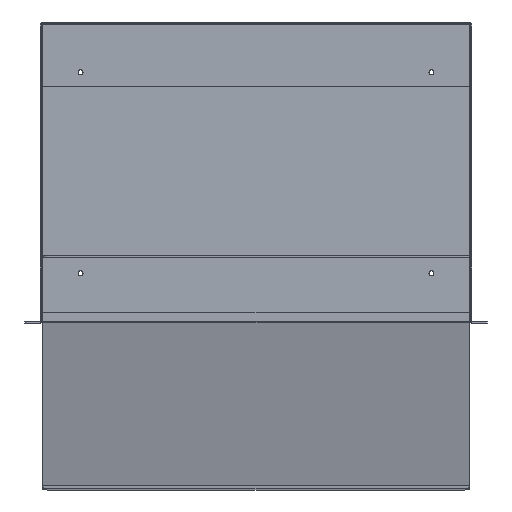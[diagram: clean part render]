
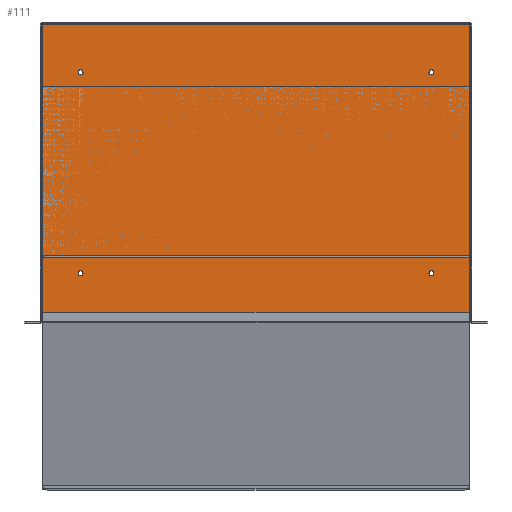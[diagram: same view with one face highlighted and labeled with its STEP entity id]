
A CAD part, top view. The second image highlights one B-rep face of the part: STEP entity #111.
In plain terms, the highlighted planar face has unit normal (0, 0, 1).
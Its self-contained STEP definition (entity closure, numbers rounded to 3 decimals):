
#111 = ADVANCED_FACE( '', ( #261, #262, #263, #264, #265 ), #266, .T. );
#261 = FACE_BOUND( '', #591, .T. );
#262 = FACE_BOUND( '', #592, .T. );
#263 = FACE_BOUND( '', #593, .T. );
#264 = FACE_BOUND( '', #594, .T. );
#265 = FACE_OUTER_BOUND( '', #595, .T. );
#266 = PLANE( '', #596 );
#591 = EDGE_LOOP( '', ( #1078 ) );
#592 = EDGE_LOOP( '', ( #1079 ) );
#593 = EDGE_LOOP( '', ( #1080 ) );
#594 = EDGE_LOOP( '', ( #1081 ) );
#595 = EDGE_LOOP( '', ( #1082, #1083, #1084, #1085 ) );
#596 = AXIS2_PLACEMENT_3D( '', #1086, #1087, #1088 );
#1078 = ORIENTED_EDGE( '', *, *, #1927, .F. );
#1079 = ORIENTED_EDGE( '', *, *, #1928, .F. );
#1080 = ORIENTED_EDGE( '', *, *, #1929, .F. );
#1081 = ORIENTED_EDGE( '', *, *, #1930, .F. );
#1082 = ORIENTED_EDGE( '', *, *, #1931, .F. );
#1083 = ORIENTED_EDGE( '', *, *, #1892, .T. );
#1084 = ORIENTED_EDGE( '', *, *, #1932, .F. );
#1085 = ORIENTED_EDGE( '', *, *, #1933, .T. );
#1086 = CARTESIAN_POINT( '', ( -273.05, -189.586, 1.829 ) );
#1087 = DIRECTION( '', ( 0., 0., 1. ) );
#1088 = DIRECTION( '', ( 1., 0., 0. ) );
#1892 = EDGE_CURVE( '', #2258, #2253, #2261, .T. );
#1927 = EDGE_CURVE( '', #2323, #2323, #2324, .T. );
#1928 = EDGE_CURVE( '', #2325, #2325, #2326, .T. );
#1929 = EDGE_CURVE( '', #2327, #2327, #2328, .T. );
#1930 = EDGE_CURVE( '', #2329, #2329, #2330, .T. );
#1931 = EDGE_CURVE( '', #2258, #2331, #2332, .T. );
#1932 = EDGE_CURVE( '', #2333, #2253, #2334, .T. );
#1933 = EDGE_CURVE( '', #2333, #2331, #2335, .T. );
#2253 = VERTEX_POINT( '', #2845 );
#2258 = VERTEX_POINT( '', #2851 );
#2261 = LINE( '', #2867, #2868 );
#2323 = VERTEX_POINT( '', #2986 );
#2324 = CIRCLE( '', #2987, 3.175 );
#2325 = VERTEX_POINT( '', #2988 );
#2326 = CIRCLE( '', #2989, 3.175 );
#2327 = VERTEX_POINT( '', #2990 );
#2328 = CIRCLE( '', #2991, 3.175 );
#2329 = VERTEX_POINT( '', #2992 );
#2330 = CIRCLE( '', #2993, 3.175 );
#2331 = VERTEX_POINT( '', #2994 );
#2332 = LINE( '', #2995, #2996 );
#2333 = VERTEX_POINT( '', #2997 );
#2334 = LINE( '', #2998, #2999 );
#2335 = LINE( '', #3000, #3001 );
#2845 = CARTESIAN_POINT( '', ( -270.307, 186.842, 1.829 ) );
#2851 = CARTESIAN_POINT( '', ( 270.307, 186.842, 1.829 ) );
#2867 = CARTESIAN_POINT( '', ( -270.305, 186.842, 1.829 ) );
#2868 = VECTOR( '', #3636, 1000. );
#2986 = CARTESIAN_POINT( '', ( -218.669, 126.086, 1.829 ) );
#2987 = AXIS2_PLACEMENT_3D( '', #3675, #3676, #3677 );
#2988 = CARTESIAN_POINT( '', ( 225.019, -127.914, 1.829 ) );
#2989 = AXIS2_PLACEMENT_3D( '', #3678, #3679, #3680 );
#2990 = CARTESIAN_POINT( '', ( 225.019, 126.086, 1.829 ) );
#2991 = AXIS2_PLACEMENT_3D( '', #3681, #3682, #3683 );
#2992 = CARTESIAN_POINT( '', ( -218.669, -127.914, 1.829 ) );
#2993 = AXIS2_PLACEMENT_3D( '', #3684, #3685, #3686 );
#2994 = CARTESIAN_POINT( '', ( 270.307, -189.586, 1.829 ) );
#2995 = CARTESIAN_POINT( '', ( 270.307, 189.586, 1.829 ) );
#2996 = VECTOR( '', #3687, 1000. );
#2997 = CARTESIAN_POINT( '', ( -270.307, -189.586, 1.829 ) );
#2998 = CARTESIAN_POINT( '', ( -270.307, -189.586, 1.829 ) );
#2999 = VECTOR( '', #3688, 1000. );
#3000 = CARTESIAN_POINT( '', ( -273.05, -189.586, 1.829 ) );
#3001 = VECTOR( '', #3689, 1000. );
#3636 = DIRECTION( '', ( -1., 0., 0. ) );
#3675 = CARTESIAN_POINT( '', ( -221.844, 126.086, 1.829 ) );
#3676 = DIRECTION( '', ( 0., 0., 1. ) );
#3677 = DIRECTION( '', ( 1., 0., 0. ) );
#3678 = CARTESIAN_POINT( '', ( 221.844, -127.914, 1.829 ) );
#3679 = DIRECTION( '', ( 0., 0., 1. ) );
#3680 = DIRECTION( '', ( 1., 0., 0. ) );
#3681 = CARTESIAN_POINT( '', ( 221.844, 126.086, 1.829 ) );
#3682 = DIRECTION( '', ( 0., 0., 1. ) );
#3683 = DIRECTION( '', ( 1., 0., 0. ) );
#3684 = CARTESIAN_POINT( '', ( -221.844, -127.914, 1.829 ) );
#3685 = DIRECTION( '', ( 0., 0., 1. ) );
#3686 = DIRECTION( '', ( 1., 0., 0. ) );
#3687 = DIRECTION( '', ( 0., -1., 0. ) );
#3688 = DIRECTION( '', ( 0., 1., 0. ) );
#3689 = DIRECTION( '', ( 1., 0., 0. ) );
